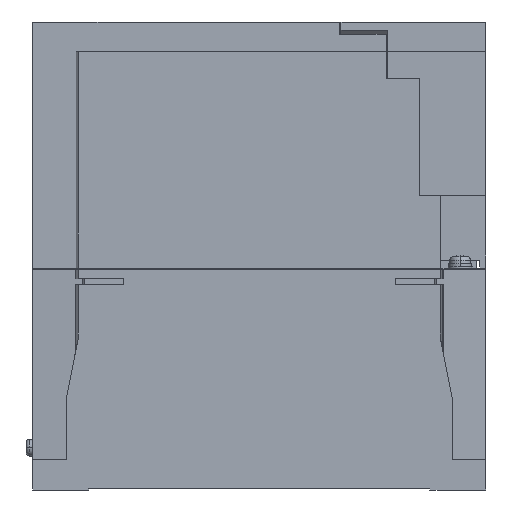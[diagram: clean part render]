
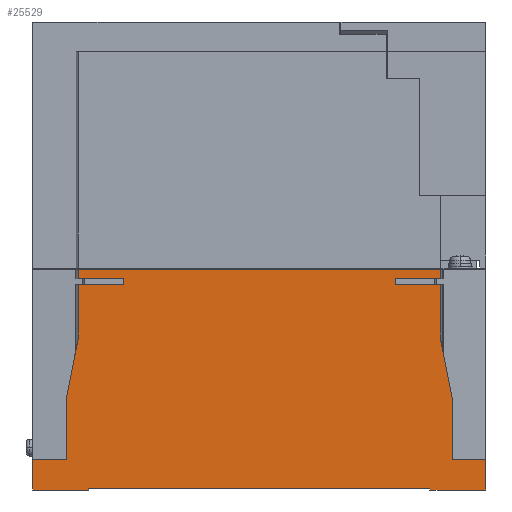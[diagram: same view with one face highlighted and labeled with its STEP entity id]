
A CAD part, left-side view. The second image highlights one B-rep face of the part: STEP entity #25529.
In plain terms, the highlighted planar face has unit normal (-1, 0, 0).
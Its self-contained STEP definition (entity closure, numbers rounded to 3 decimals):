
#93=DIRECTION('',(0.,-1.,0.));
#94=VECTOR('',#93,120.);
#95=CARTESIAN_POINT('',(-110.,135.,0.));
#96=LINE('',#95,#94);
#6624=DIRECTION('',(0.,0.,-1.));
#6625=VECTOR('',#6624,18.);
#6626=CARTESIAN_POINT('',(-110.,15.,-5.));
#6627=LINE('',#6626,#6625);
#6628=DIRECTION('',(0.,0.196,0.981));
#6629=VECTOR('',#6628,20.396);
#6630=CARTESIAN_POINT('',(-110.,11.,-43.));
#6631=LINE('',#6630,#6629);
#6632=DIRECTION('',(0.,0.,1.));
#6633=VECTOR('',#6632,20.);
#6634=CARTESIAN_POINT('',(-110.,11.,-63.));
#6635=LINE('',#6634,#6633);
#6636=DIRECTION('',(0.,-1.,0.));
#6637=VECTOR('',#6636,11.);
#6638=CARTESIAN_POINT('',(-110.,11.,-63.));
#6639=LINE('',#6638,#6637);
#6640=DIRECTION('',(0.,0.,1.));
#6641=VECTOR('',#6640,0.5);
#6642=CARTESIAN_POINT('',(-110.,18.505,-73.));
#6643=LINE('',#6642,#6641);
#6644=DIRECTION('',(0.,-1.,0.));
#6645=VECTOR('',#6644,112.99);
#6646=CARTESIAN_POINT('',(-110.,131.495,-72.5));
#6647=LINE('',#6646,#6645);
#6648=DIRECTION('',(0.,0.,1.));
#6649=VECTOR('',#6648,0.5);
#6650=CARTESIAN_POINT('',(-110.,131.495,-73.));
#6651=LINE('',#6650,#6649);
#6652=DIRECTION('',(0.,0.,-1.));
#6653=VECTOR('',#6652,10.);
#6654=CARTESIAN_POINT('',(-110.,150.,-63.));
#6655=LINE('',#6654,#6653);
#6656=DIRECTION('',(0.,-1.,0.));
#6657=VECTOR('',#6656,11.);
#6658=CARTESIAN_POINT('',(-110.,150.,-63.));
#6659=LINE('',#6658,#6657);
#6660=DIRECTION('',(0.,0.,-1.));
#6661=VECTOR('',#6660,18.);
#6662=CARTESIAN_POINT('',(-110.,135.,-5.));
#6663=LINE('',#6662,#6661);
#6664=DIRECTION('',(0.,1.,0.));
#6665=VECTOR('',#6664,15.);
#6666=CARTESIAN_POINT('',(-110.,120.,-5.));
#6667=LINE('',#6666,#6665);
#6668=DIRECTION('',(0.,0.,1.));
#6669=VECTOR('',#6668,2.);
#6670=CARTESIAN_POINT('',(-110.,120.,-5.));
#6671=LINE('',#6670,#6669);
#6672=DIRECTION('',(0.,1.,0.));
#6673=VECTOR('',#6672,15.);
#6674=CARTESIAN_POINT('',(-110.,120.,-3.));
#6675=LINE('',#6674,#6673);
#6676=DIRECTION('',(0.,0.,-1.));
#6677=VECTOR('',#6676,3.);
#6678=CARTESIAN_POINT('',(-110.,135.,0.));
#6679=LINE('',#6678,#6677);
#6680=DIRECTION('',(0.,0.,-1.));
#6681=VECTOR('',#6680,3.);
#6682=CARTESIAN_POINT('',(-110.,15.,0.));
#6683=LINE('',#6682,#6681);
#6684=DIRECTION('',(0.,1.,0.));
#6685=VECTOR('',#6684,15.);
#6686=CARTESIAN_POINT('',(-110.,15.,-3.));
#6687=LINE('',#6686,#6685);
#6688=DIRECTION('',(0.,0.,1.));
#6689=VECTOR('',#6688,2.);
#6690=CARTESIAN_POINT('',(-110.,30.,-5.));
#6691=LINE('',#6690,#6689);
#6692=DIRECTION('',(0.,1.,0.));
#6693=VECTOR('',#6692,15.);
#6694=CARTESIAN_POINT('',(-110.,15.,-5.));
#6695=LINE('',#6694,#6693);
#7140=DIRECTION('',(0.,-1.,0.));
#7141=VECTOR('',#7140,18.505);
#7142=CARTESIAN_POINT('',(-110.,150.,-73.));
#7143=LINE('',#7142,#7141);
#7191=DIRECTION('',(0.,-1.,0.));
#7192=VECTOR('',#7191,18.505);
#7193=CARTESIAN_POINT('',(-110.,18.505,-73.));
#7194=LINE('',#7193,#7192);
#7272=DIRECTION('',(0.,0.,-1.));
#7273=VECTOR('',#7272,10.);
#7274=CARTESIAN_POINT('',(-110.,0.,-63.));
#7275=LINE('',#7274,#7273);
#7570=DIRECTION('',(0.,0.,1.));
#7571=VECTOR('',#7570,20.);
#7572=CARTESIAN_POINT('',(-110.,139.,-63.));
#7573=LINE('',#7572,#7571);
#7629=DIRECTION('',(0.,-0.196,0.981));
#7630=VECTOR('',#7629,20.396);
#7631=CARTESIAN_POINT('',(-110.,139.,-43.));
#7632=LINE('',#7631,#7630);
#9282=CARTESIAN_POINT('',(-110.,150.,-63.));
#9284=VERTEX_POINT('',#9282);
#9313=CARTESIAN_POINT('',(-110.,0.,-63.));
#9314=VERTEX_POINT('',#9313);
#9329=CARTESIAN_POINT('',(-110.,15.,-3.));
#9330=CARTESIAN_POINT('',(-110.,30.,-3.));
#9331=VERTEX_POINT('',#9329);
#9332=VERTEX_POINT('',#9330);
#9333=CARTESIAN_POINT('',(-110.,15.,-5.));
#9334=CARTESIAN_POINT('',(-110.,30.,-5.));
#9335=VERTEX_POINT('',#9333);
#9336=VERTEX_POINT('',#9334);
#9393=CARTESIAN_POINT('',(-110.,120.,-3.));
#9394=CARTESIAN_POINT('',(-110.,135.,-3.));
#9395=VERTEX_POINT('',#9393);
#9396=VERTEX_POINT('',#9394);
#9397=CARTESIAN_POINT('',(-110.,120.,-5.));
#9398=CARTESIAN_POINT('',(-110.,135.,-5.));
#9399=VERTEX_POINT('',#9397);
#9400=VERTEX_POINT('',#9398);
#9445=CARTESIAN_POINT('',(-110.,139.,-43.));
#9447=VERTEX_POINT('',#9445);
#9449=CARTESIAN_POINT('',(-110.,139.,-63.));
#9450=VERTEX_POINT('',#9449);
#9455=CARTESIAN_POINT('',(-110.,135.,-23.));
#9456=VERTEX_POINT('',#9455);
#9462=CARTESIAN_POINT('',(-110.,11.,-43.));
#9464=VERTEX_POINT('',#9462);
#9469=CARTESIAN_POINT('',(-110.,11.,-63.));
#9470=VERTEX_POINT('',#9469);
#9473=CARTESIAN_POINT('',(-110.,15.,-23.));
#9474=VERTEX_POINT('',#9473);
#9485=CARTESIAN_POINT('',(-110.,135.,0.));
#9487=VERTEX_POINT('',#9485);
#9507=CARTESIAN_POINT('',(-110.,15.,0.));
#9508=VERTEX_POINT('',#9507);
#9533=CARTESIAN_POINT('',(-110.,0.,-73.));
#9534=VERTEX_POINT('',#9533);
#9539=CARTESIAN_POINT('',(-110.,150.,-73.));
#9540=VERTEX_POINT('',#9539);
#9589=CARTESIAN_POINT('',(-110.,131.495,-72.5));
#9590=CARTESIAN_POINT('',(-110.,18.505,-72.5));
#9591=VERTEX_POINT('',#9589);
#9592=VERTEX_POINT('',#9590);
#9593=CARTESIAN_POINT('',(-110.,131.495,-73.));
#9594=VERTEX_POINT('',#9593);
#9595=CARTESIAN_POINT('',(-110.,18.505,-73.));
#9596=VERTEX_POINT('',#9595);
#25478=CARTESIAN_POINT('',(-110.,150.,0.));
#25479=DIRECTION('',(-1.,0.,0.));
#25480=DIRECTION('',(0.,-1.,0.));
#25481=AXIS2_PLACEMENT_3D('',#25478,#25479,#25480);
#25482=PLANE('',#25481);
#25484=ORIENTED_EDGE('',*,*,#25483,.T.);
#25486=ORIENTED_EDGE('',*,*,#25485,.F.);
#25488=ORIENTED_EDGE('',*,*,#25487,.F.);
#25490=ORIENTED_EDGE('',*,*,#25489,.T.);
#25492=ORIENTED_EDGE('',*,*,#25491,.T.);
#25494=ORIENTED_EDGE('',*,*,#25493,.F.);
#25496=ORIENTED_EDGE('',*,*,#25495,.T.);
#25498=ORIENTED_EDGE('',*,*,#25497,.F.);
#25500=ORIENTED_EDGE('',*,*,#25499,.F.);
#25502=ORIENTED_EDGE('',*,*,#25501,.F.);
#25503=ORIENTED_EDGE('',*,*,#12444,.F.);
#25505=ORIENTED_EDGE('',*,*,#25504,.T.);
#25507=ORIENTED_EDGE('',*,*,#25506,.T.);
#25509=ORIENTED_EDGE('',*,*,#25508,.T.);
#25511=ORIENTED_EDGE('',*,*,#25510,.F.);
#25513=ORIENTED_EDGE('',*,*,#25512,.F.);
#25515=ORIENTED_EDGE('',*,*,#25514,.T.);
#25516=ORIENTED_EDGE('',*,*,#25456,.T.);
#25518=ORIENTED_EDGE('',*,*,#25517,.F.);
#25519=ORIENTED_EDGE('',*,*,#12226,.T.);
#25521=ORIENTED_EDGE('',*,*,#25520,.T.);
#25522=ORIENTED_EDGE('',*,*,#25369,.T.);
#25524=ORIENTED_EDGE('',*,*,#25523,.F.);
#25526=ORIENTED_EDGE('',*,*,#25525,.F.);
#25527=EDGE_LOOP('',(#25484,#25486,#25488,#25490,#25492,#25494,#25496,#25498,
#25500,#25502,#25503,#25505,#25507,#25509,#25511,#25513,#25515,#25516,#25518,
#25519,#25521,#25522,#25524,#25526));
#25528=FACE_OUTER_BOUND('',#25527,.F.);
#25529=ADVANCED_FACE('',(#25528),#25482,.T.);
#12226=EDGE_CURVE('',#9487,#9508,#96,.T.);
#12444=EDGE_CURVE('',#9284,#9540,#6655,.T.);
#25369=EDGE_CURVE('',#9331,#9332,#6687,.T.);
#25456=EDGE_CURVE('',#9395,#9396,#6675,.T.);
#25483=EDGE_CURVE('',#9335,#9474,#6627,.T.);
#25485=EDGE_CURVE('',#9464,#9474,#6631,.T.);
#25487=EDGE_CURVE('',#9470,#9464,#6635,.T.);
#25489=EDGE_CURVE('',#9470,#9314,#6639,.T.);
#25491=EDGE_CURVE('',#9314,#9534,#7275,.T.);
#25493=EDGE_CURVE('',#9596,#9534,#7194,.T.);
#25495=EDGE_CURVE('',#9596,#9592,#6643,.T.);
#25497=EDGE_CURVE('',#9591,#9592,#6647,.T.);
#25499=EDGE_CURVE('',#9594,#9591,#6651,.T.);
#25501=EDGE_CURVE('',#9540,#9594,#7143,.T.);
#25504=EDGE_CURVE('',#9284,#9450,#6659,.T.);
#25506=EDGE_CURVE('',#9450,#9447,#7573,.T.);
#25508=EDGE_CURVE('',#9447,#9456,#7632,.T.);
#25510=EDGE_CURVE('',#9400,#9456,#6663,.T.);
#25512=EDGE_CURVE('',#9399,#9400,#6667,.T.);
#25514=EDGE_CURVE('',#9399,#9395,#6671,.T.);
#25517=EDGE_CURVE('',#9487,#9396,#6679,.T.);
#25520=EDGE_CURVE('',#9508,#9331,#6683,.T.);
#25523=EDGE_CURVE('',#9336,#9332,#6691,.T.);
#25525=EDGE_CURVE('',#9335,#9336,#6695,.T.);
